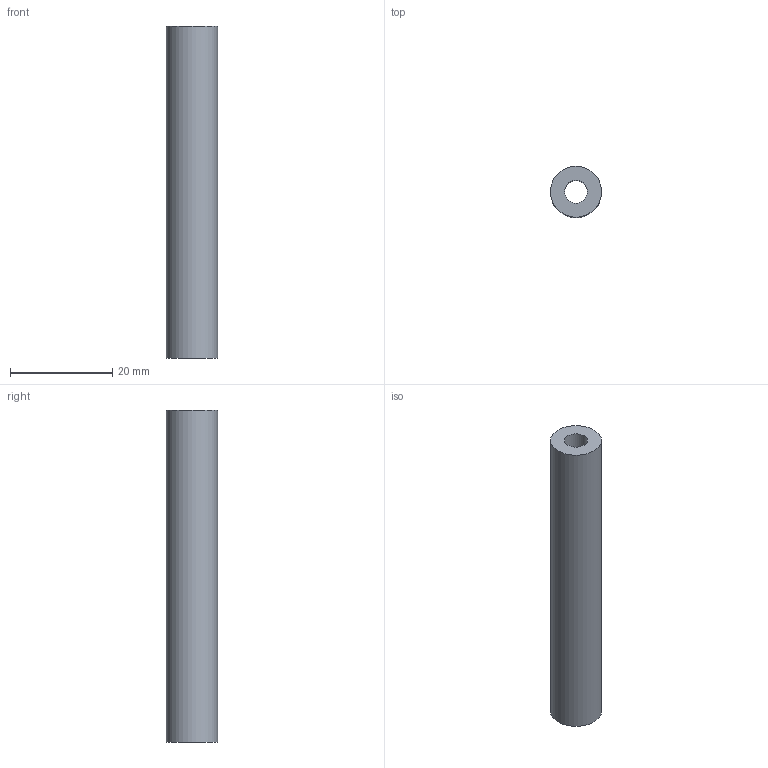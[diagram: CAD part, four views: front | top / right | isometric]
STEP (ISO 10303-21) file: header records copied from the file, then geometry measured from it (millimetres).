
FILE_DESCRIPTION(('Open CASCADE Model'),'2;1');
FILE_NAME('Open CASCADE Shape Model','2026-10-15T02:45:44',('Author'),( 'Open CASCADE'),'Open CASCADE STEP processor 7.9','Open CASCADE 7.9' ,'Unknown');
FILE_SCHEMA(('AUTOMOTIVE_DESIGN { 1 0 10303 214 1 1 1 1 }'));
Length unit declared in the file: millimetre
Products named in the file (1): Open CASCADE STEP translator 7.9 12
Bounding box: 10 x 10 x 65 mm (x, y, z)
Volume: 4071.3 mm3; surface area: 3086.2 mm2
Topology: 1 solids, 1 shells, 4 faces, 6 edges, 4 vertices
Faces by surface type: cylinder 2, plane 2
Full cylindrical faces by diameter (mm): 4.5 x1, 10 x1
Entity records: 186 total; most frequent: DIRECTION 32, CARTESIAN_POINT 27, ORIENTED_EDGE 12, PCURVE 12, DEFINITIONAL_REPRESENTATION 12, LINE 10, VECTOR 10, AXIS2_PLACEMENT_3D 9
